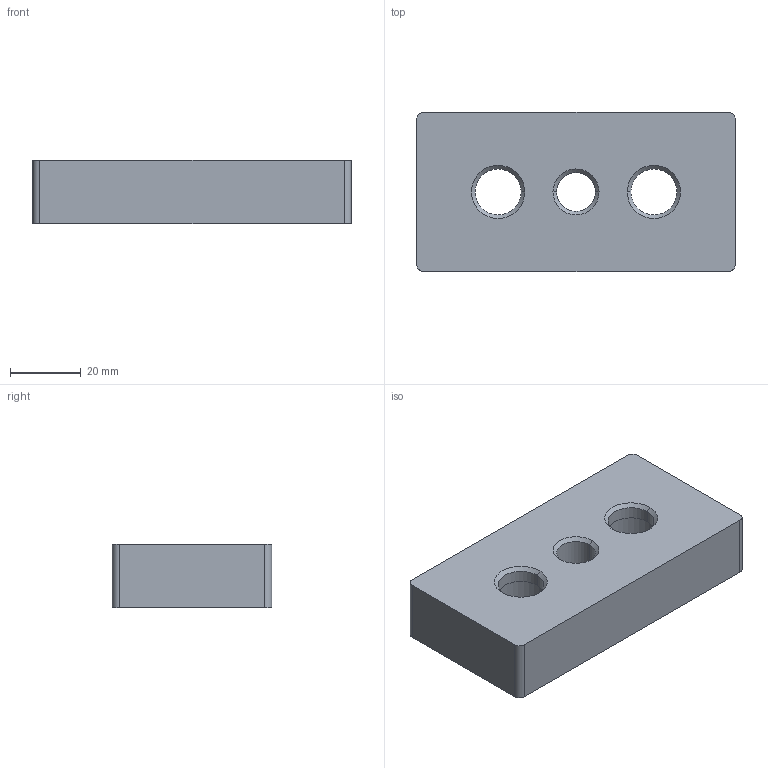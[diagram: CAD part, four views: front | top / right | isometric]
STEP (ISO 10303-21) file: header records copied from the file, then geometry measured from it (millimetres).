
FILE_DESCRIPTION (( 'STEP AP203' ), '1' );
FILE_NAME ('7003.STEP', '2016-04-03T12:01:31', ( '' ), ( '' ), 'SwSTEP 2.0', 'SolidWorks 2014', '' );
FILE_SCHEMA (( 'CONFIG_CONTROL_DESIGN' ));
Length unit declared in the file: millimetre
Products named in the file (1): 7003
Bounding box: 90 x 45 x 18 mm (x, y, z)
Volume: 62924.1 mm3; surface area: 14540 mm2
Topology: 1 solids, 1 shells, 34 faces, 78 edges, 48 vertices
Faces by surface type: cylinder 14, cone 12, plane 8
Entity records: 1055 total; most frequent: DIRECTION 188, CARTESIAN_POINT 161, ORIENTED_EDGE 156, EDGE_CURVE 78, AXIS2_PLACEMENT_3D 75, VERTEX_POINT 48, EDGE_LOOP 42, CIRCLE 40
